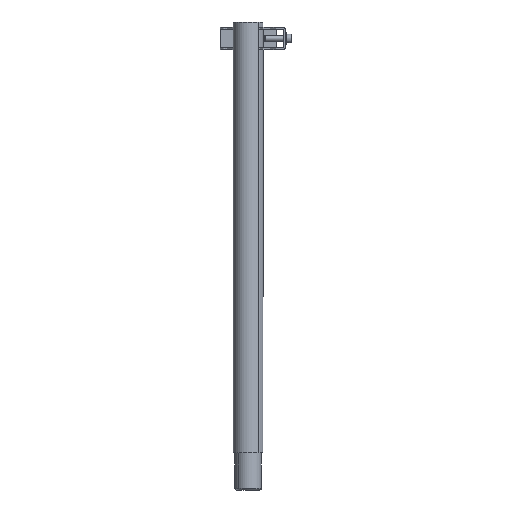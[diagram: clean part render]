
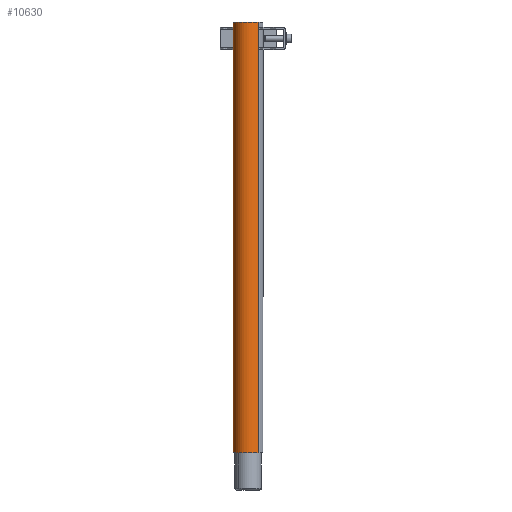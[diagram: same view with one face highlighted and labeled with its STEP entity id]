
A CAD part, left-side view. The second image highlights one B-rep face of the part: STEP entity #10630.
In plain terms, the highlighted cylindrical face has radius 22.5 mm (diameter 45 mm), a partial arc.
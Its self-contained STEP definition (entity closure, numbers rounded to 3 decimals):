
#232 = EDGE_LOOP ( 'NONE', ( #9490, #9491, #9492, #9493 ) ) ;
#1986 = CARTESIAN_POINT ( 'NONE',  ( 0., 0., 650. ) ) ;
#1988 = DIRECTION ( 'NONE',  ( -1., 0., 0. ) ) ;
#1991 = DIRECTION ( 'NONE',  ( 0., 0., -1. ) ) ;
#2502 = AXIS2_PLACEMENT_3D ( 'NONE', #1986, #1991, #1988 ) ;
#2635 = AXIS2_PLACEMENT_3D ( 'NONE', #5674, #5675, #5676 ) ;
#2636 = AXIS2_PLACEMENT_3D ( 'NONE', #5678, #5679, #5680 ) ;
#5671 = DIRECTION ( 'NONE',  ( 0., 0., -1. ) ) ;
#5672 = DIRECTION ( 'NONE',  ( 0., 0., -1. ) ) ;
#5673 = CARTESIAN_POINT ( 'NONE',  ( 22.5, 0., 650. ) ) ;
#5674 = CARTESIAN_POINT ( 'NONE',  ( 0., 0., 650. ) ) ;
#5675 = DIRECTION ( 'NONE',  ( 0., 0., 1. ) ) ;
#5676 = DIRECTION ( 'NONE',  ( 1., 0., 0. ) ) ;
#5677 = CARTESIAN_POINT ( 'NONE',  ( -22.5, 0., 650. ) ) ;
#5678 = CARTESIAN_POINT ( 'NONE',  ( 0., 0., 0. ) ) ;
#5679 = DIRECTION ( 'NONE',  ( 0., 0., 1. ) ) ;
#5680 = DIRECTION ( 'NONE',  ( 1., 0., 0. ) ) ;
#7002 = VERTEX_POINT ( 'NONE', #11688 ) ;
#7003 = VERTEX_POINT ( 'NONE', #11689 ) ;
#7006 = VERTEX_POINT ( 'NONE', #11692 ) ;
#7012 = VERTEX_POINT ( 'NONE', #11698 ) ;
#7669 = CIRCLE ( 'NONE', #2635, 22.5 ) ;
#7670 = LINE ( 'NONE', #5673, #7674 ) ;
#7672 = CIRCLE ( 'NONE', #2636, 22.5 ) ;
#7674 = VECTOR ( 'NONE', #5671, 1000. ) ;
#7675 = LINE ( 'NONE', #5677, #7677 ) ;
#7677 = VECTOR ( 'NONE', #5672, 1000. ) ;
#7919 = FACE_OUTER_BOUND ( 'NONE', #232, .T. ) ;
#7924 = CYLINDRICAL_SURFACE ( 'NONE', #2502, 22.5 ) ;
#9490 = ORIENTED_EDGE ( 'NONE', *, *, #10877, .F. ) ;
#9491 = ORIENTED_EDGE ( 'NONE', *, *, #10878, .T. ) ;
#9492 = ORIENTED_EDGE ( 'NONE', *, *, #10879, .T. ) ;
#9493 = ORIENTED_EDGE ( 'NONE', *, *, #10880, .F. ) ;
#10630 = ADVANCED_FACE ( 'NONE', ( #7919 ), #7924, .T. ) ;
#10877 = EDGE_CURVE ( 'NONE', #7012, #7006, #7669, .T. ) ;
#10878 = EDGE_CURVE ( 'NONE', #7012, #7003, #7670, .T. ) ;
#10879 = EDGE_CURVE ( 'NONE', #7003, #7002, #7672, .T. ) ;
#10880 = EDGE_CURVE ( 'NONE', #7006, #7002, #7675, .T. ) ;
#11688 = CARTESIAN_POINT ( 'NONE',  ( -22.5, 0., 0. ) ) ;
#11689 = CARTESIAN_POINT ( 'NONE',  ( 22.5, 0., 0. ) ) ;
#11692 = CARTESIAN_POINT ( 'NONE',  ( -22.5, 0., 650. ) ) ;
#11698 = CARTESIAN_POINT ( 'NONE',  ( 22.5, 0., 650. ) ) ;
